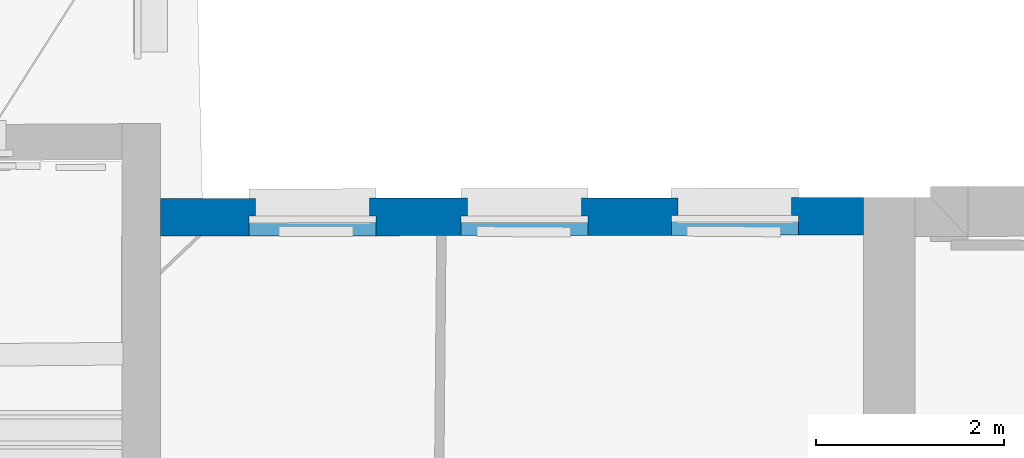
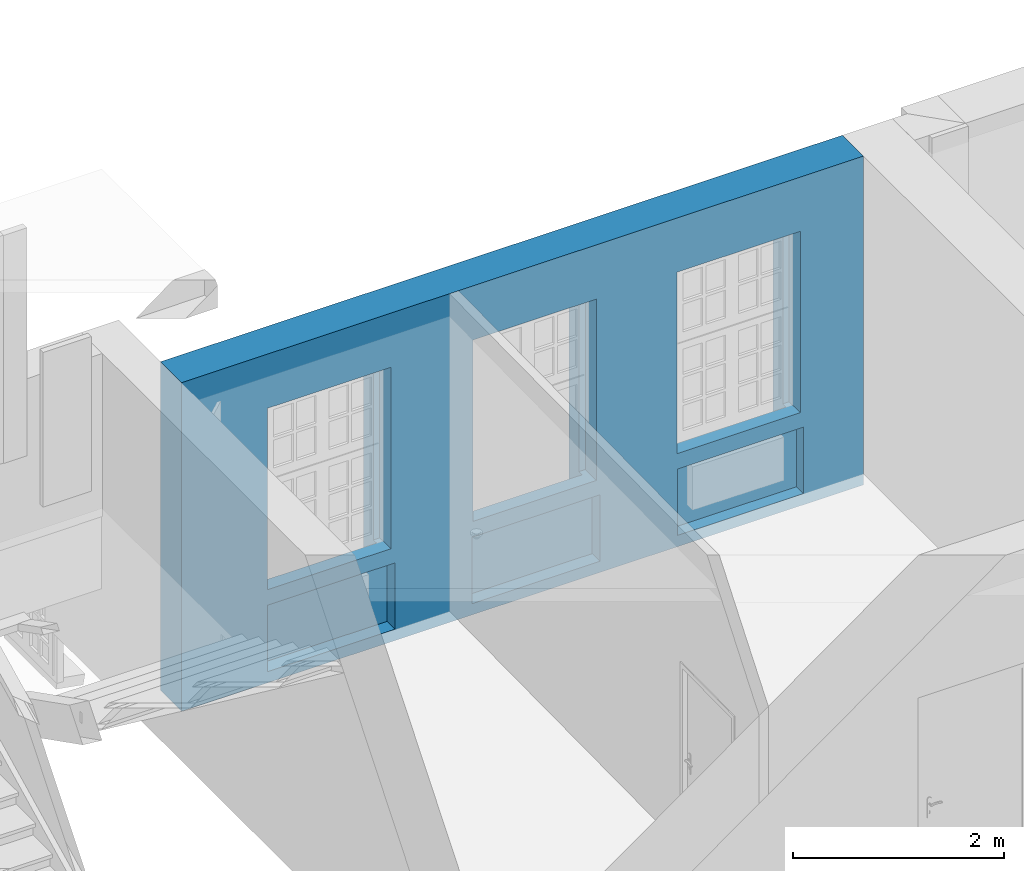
# One storey, part 55 of 158: 1 wall, 6 openings.
"""IFC2X3 building model written with IfcOpenShell, lengths in metres."""

from ifc_helpers import new_model, entity, si_unit, converted_unit, derived_unit, money_unit, direction, frame, origin_with_axes, origin_2d_with_axis, place, context, subcontext, project, spatial, polyline, rectangle, outline, extrude, boolean, faceted_brep, material, type_object, element, save


model = new_model("IFC2X3")

# Units and contexts
model_context = context("Model", 3, precision=1e-05, world=origin_with_axes(), true_north=direction((0.0, 1.0)))
body_context = subcontext(model_context, "Body", "Model", "MODEL_VIEW")
ifc_project = project(units=[si_unit("LENGTHUNIT", "METRE"), si_unit("AREAUNIT", "SQUARE_METRE"), si_unit("VOLUMEUNIT", "CUBIC_METRE"), converted_unit("PLANEANGLEUNIT", "DEGREE", entity("IfcPlaneAngleMeasure", 0.0174532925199), si_unit("PLANEANGLEUNIT", "RADIAN"), dimensions=[0, 0, 0, 0, 0, 0, 0]), money_unit("EUR"), converted_unit("TIMEUNIT", "Year", entity("IfcTimeMeasure", 31556926.0), si_unit("TIMEUNIT", "SECOND"), dimensions=[0, 0, 1, 0, 0, 0, 0]), si_unit("MASSUNIT", "GRAM", prefix="KILO"), si_unit("THERMODYNAMICTEMPERATUREUNIT", "DEGREE_CELSIUS"), si_unit("LUMINOUSINTENSITYUNIT", "LUMEN"), si_unit("ENERGYUNIT", "JOULE", prefix="MEGA"), derived_unit("THERMALCONDUCTANCEUNIT", [(si_unit("POWERUNIT", "WATT"), 1), (si_unit("LENGTHUNIT", "METRE"), -1), (si_unit("THERMODYNAMICTEMPERATUREUNIT", "KELVIN"), -1)]), derived_unit("SPECIFICHEATCAPACITYUNIT", [(si_unit("ENERGYUNIT", "JOULE"), 1), (si_unit("MASSUNIT", "GRAM", prefix="KILO"), -1), (si_unit("THERMODYNAMICTEMPERATUREUNIT", "KELVIN"), -1)]), derived_unit("MASSDENSITYUNIT", [(si_unit("MASSUNIT", "GRAM", prefix="KILO"), 1), (si_unit("VOLUMEUNIT", "CUBIC_METRE"), -1)])], contexts=[model_context])

# Site, building, storey
site_placement = place(None, origin_with_axes())
site = spatial("IfcSite", under=ifc_project, at=site_placement, Name="Gelände", CompositionType="ELEMENT")
building_placement = place(site_placement, origin_with_axes())
building = spatial("IfcBuilding", under=site, at=building_placement, Name="Gebäude", CompositionType="ELEMENT")
storey_placement = place(building_placement, origin_with_axes())
storey = spatial("IfcBuildingStorey", under=building, at=storey_placement, Name="ERDGESCHOSS", CompositionType="ELEMENT", Elevation=0.0)

# Wall, openings
ifc_material = material(Name="05_ALLGEMEIN - TRAGENDE BAUTEILE")
wall_type = type_object("IfcWallType", Name="05_ALLGEMEIN - TRAGENDE BAUTEILE 400", PredefinedType="ELEMENTEDWALL")
wall_placement = place(storey_placement, frame((3.56753862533, 26.0724114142, -0.21), z_axis=(0.0, 0.0, 1.0), x_axis=(-0.999999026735, -0.00139518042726, 0.0)))
wall = element("IfcWall", 1, at=wall_placement, inside=storey, type_object=wall_type, material=ifc_material, Name="Wand-030", ObjectType="ELEMENTEDWALL", context=body_context, shape_type="CSG", body=[
    boolean("DIFFERENCE", boolean("DIFFERENCE", extrude(outline(polyline([(0.0, 0.0), (8.44062826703, 0.0), (8.44062826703, 0.4), (0.0, 0.4), (0.0, 0.0)])), frame((0.0, 0.0, -4.88479612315e-09), z_axis=(0.0, 0.0, 1.0), x_axis=(1.0, 0.0, 0.0)), (0.0, 0.0, 1.0), 3.81000000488), faceted_brep([(8.03062757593, 0.4, 3.81), (8.02989313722, 0.0, 3.81), (8.44062826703, 0.0, 3.81), (8.44062826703, 0.4, 3.81), (8.02989313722, 0.0, 0.0), (8.03062757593, 0.4, 0.0), (8.44062826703, 0.0, -4.88479612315e-09), (8.44062826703, 0.4, -4.88479612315e-09)], [[[0, 1, 2, 3]], [[4, 1, 0, 5]], [[1, 4, 6, 2]], [[2, 6, 7, 3]], [[5, 0, 3, 7]], [[4, 5, 7, 6]]])), faceted_brep([(0.550000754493, 0.0, -4.88479612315e-09), (0.550000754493, 0.0, 3.81), (0.0, 0.0, 3.81), (0.0, 0.0, -4.88479612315e-09), (0.550663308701, 0.4, 3.81), (0.550663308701, 0.4, -4.88479612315e-09), (0.0, 0.4, 3.81), (0.0, 0.4, -4.88479612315e-09)], [[[0, 1, 2, 3]], [[4, 1, 0, 5]], [[1, 4, 6, 2]], [[6, 7, 3, 2]], [[5, 0, 3, 7]], [[4, 5, 7, 6]]])),
])
opening_1_placement = place(wall_placement, frame((6.41141921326, 0.0, 1.07994684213), z_axis=(0.0, 0.0, 1.0), x_axis=(1.0, 0.0, 0.0)))
element("IfcOpeningElement", 2, at=opening_1_placement, cuts=wall, Name="Fenster-015", context=body_context, shape_type="SweptSolid", body=[
    extrude(rectangle(XDim=1.35197006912, YDim=2.10222749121, at=origin_2d_with_axis()), frame((0.0, 0.19, 1.0511137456), z_axis=(0.0, -1.0, 0.0), x_axis=(1.0, 0.0, 0.0)), (0.0, 0.0, -1.0), 0.61),
    extrude(rectangle(XDim=1.21197006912, YDim=2.03222749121, at=origin_2d_with_axis()), frame((0.0, 0.19, 1.0161137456), z_axis=(0.0, 1.0, 0.0), x_axis=(1.0, 0.0, 0.0)), (0.0, 0.0, -1.0), 0.59),
    extrude(rectangle(XDim=1.21197006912, YDim=0.204135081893, at=origin_2d_with_axis()), frame((0.0, 0.251042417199, -0.102067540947), z_axis=(0.0, 1.0, 0.0), x_axis=(1.0, 0.0, 0.0)), (0.0, 0.0, -1.0), 0.461042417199),
])
opening_2_placement = place(wall_placement, frame((4.15588629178, 0.0, 1.07994684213), z_axis=(0.0, 0.0, 1.0), x_axis=(1.0, 0.0, 0.0)))
element("IfcOpeningElement", 3, at=opening_2_placement, cuts=wall, Name="Fenster-015", context=body_context, shape_type="SweptSolid", body=[
    extrude(rectangle(XDim=1.35197006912, YDim=2.10222749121, at=origin_2d_with_axis()), frame((0.0, 0.19, 1.0511137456), z_axis=(0.0, -1.0, 0.0), x_axis=(1.0, 0.0, 0.0)), (0.0, 0.0, -1.0), 0.61),
    extrude(rectangle(XDim=1.21197006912, YDim=2.03222749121, at=origin_2d_with_axis()), frame((0.0, 0.19, 1.0161137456), z_axis=(0.0, 1.0, 0.0), x_axis=(1.0, 0.0, 0.0)), (0.0, 0.0, -1.0), 0.59),
    extrude(rectangle(XDim=1.21197006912, YDim=0.204135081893, at=origin_2d_with_axis()), frame((0.0, 0.251042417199, -0.102067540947), z_axis=(0.0, 1.0, 0.0), x_axis=(1.0, 0.0, 0.0)), (0.0, 0.0, -1.0), 0.461042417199),
])
opening_3_placement = place(wall_placement, frame((1.91940441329, 0.0, 1.07994684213), z_axis=(0.0, 0.0, 1.0), x_axis=(1.0, 0.0, 0.0)))
element("IfcOpeningElement", 4, at=opening_3_placement, cuts=wall, Name="Fenster-015", context=body_context, shape_type="SweptSolid", body=[
    extrude(rectangle(XDim=1.35197006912, YDim=2.10222749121, at=origin_2d_with_axis()), frame((0.0, 0.19, 1.0511137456), z_axis=(0.0, -1.0, 0.0), x_axis=(1.0, 0.0, 0.0)), (0.0, 0.0, -1.0), 0.61),
    extrude(rectangle(XDim=1.21197006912, YDim=2.03222749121, at=origin_2d_with_axis()), frame((0.0, 0.19, 1.0161137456), z_axis=(0.0, 1.0, 0.0), x_axis=(1.0, 0.0, 0.0)), (0.0, 0.0, -1.0), 0.59),
    extrude(rectangle(XDim=1.21197006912, YDim=0.204135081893, at=origin_2d_with_axis()), frame((0.0, 0.251042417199, -0.102067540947), z_axis=(0.0, 1.0, 0.0), x_axis=(1.0, 0.0, 0.0)), (0.0, 0.0, -1.0), 0.461042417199),
])
opening_4_placement = place(wall_placement, frame((1.90019694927, 0.0, 0.13), z_axis=(0.0, 0.0, 1.0), x_axis=(1.0, 0.0, 0.0)))
element("IfcOpeningElement", 5, at=opening_4_placement, cuts=wall, Name="Fenster-019", ObjectType="Recess", context=body_context, shape_type="SweptSolid", body=[
    extrude(rectangle(XDim=1.38475808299, YDim=0.770413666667, at=origin_2d_with_axis()), frame((0.0, 0.267843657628, 0.385206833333), z_axis=(0.0, 1.0, 0.0), x_axis=(-1.0, 0.0, 0.0)), (0.0, 0.0, 1.0), 0.532156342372),
])
opening_5_placement = place(wall_placement, frame((4.14322799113, 0.0, 0.13), z_axis=(0.0, 0.0, 1.0), x_axis=(1.0, 0.0, 0.0)))
element("IfcOpeningElement", 6, at=opening_5_placement, cuts=wall, Name="Fenster-019", ObjectType="Recess", context=body_context, shape_type="SweptSolid", body=[
    extrude(rectangle(XDim=1.40298895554, YDim=0.770413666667, at=origin_2d_with_axis()), frame((0.0, 0.253822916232, 0.385206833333), z_axis=(0.0, 1.0, 0.0), x_axis=(-1.0, 0.0, 0.0)), (0.0, 0.0, 1.0), 0.546177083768),
])
opening_6_placement = place(wall_placement, frame((6.38799945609, 0.0, 0.13), z_axis=(0.0, 0.0, 1.0), x_axis=(1.0, 0.0, 0.0)))
element("IfcOpeningElement", 7, at=opening_6_placement, cuts=wall, Name="Fenster-019", ObjectType="Recess", context=body_context, shape_type="SweptSolid", body=[
    extrude(rectangle(XDim=1.39880958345, YDim=0.770413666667, at=origin_2d_with_axis()), frame((0.0, 0.248026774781, 0.385206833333), z_axis=(0.0, 1.0, 0.0), x_axis=(-1.0, 0.0, 0.0)), (0.0, 0.0, 1.0), 0.551973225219),
])

save(model, "model.ifc")
